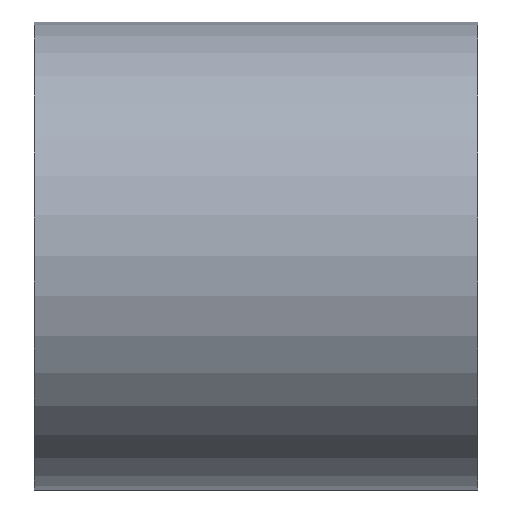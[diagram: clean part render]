
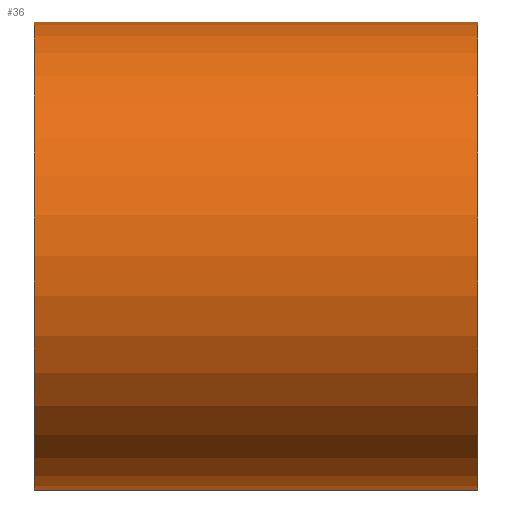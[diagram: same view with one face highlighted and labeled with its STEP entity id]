
A CAD part, top view. The second image highlights one B-rep face of the part: STEP entity #36.
In plain terms, the highlighted cylindrical face has radius 1.054 mm (diameter 2.108 mm), a partial arc.
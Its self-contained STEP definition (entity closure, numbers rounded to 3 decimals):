
#36=ADVANCED_FACE('',(#42),#78,.T.);
#42=FACE_OUTER_BOUND('',#50,.F.);
#50=EDGE_LOOP('',(#71,#72,#73,#74));
#71=ORIENTED_EDGE('',*,*,#101,.F.);
#72=ORIENTED_EDGE('',*,*,#106,.T.);
#73=ORIENTED_EDGE('',*,*,#102,.T.);
#74=ORIENTED_EDGE('',*,*,#105,.T.);
#78=CYLINDRICAL_SURFACE('',#138,1.054);
#89=LINE('',#191,#93);
#90=LINE('',#192,#94);
#93=VECTOR('',#152,2.);
#94=VECTOR('',#153,2.);
#101=EDGE_CURVE('',#115,#118,#89,.T.);
#102=EDGE_CURVE('',#116,#117,#90,.T.);
#105=EDGE_CURVE('',#117,#118,#113,.T.);
#106=EDGE_CURVE('',#115,#116,#114,.T.);
#113=CIRCLE('',#131,1.054);
#114=CIRCLE('',#132,1.054);
#115=VERTEX_POINT('',#177);
#116=VERTEX_POINT('',#178);
#117=VERTEX_POINT('',#179);
#118=VERTEX_POINT('',#180);
#131=AXIS2_PLACEMENT_3D('',#195,#158,#159);
#132=AXIS2_PLACEMENT_3D('',#196,#160,#161);
#138=AXIS2_PLACEMENT_3D('',#202,#172,#173);
#152=DIRECTION('',(1.,0.,0.));
#153=DIRECTION('',(1.,0.,0.));
#158=DIRECTION('',(1.,0.,0.));
#159=DIRECTION('',(0.,1.,0.));
#160=DIRECTION('',(-1.,0.,0.));
#161=DIRECTION('',(0.,-1.,0.));
#172=DIRECTION('',(1.,0.,0.));
#173=DIRECTION('',(0.,1.,0.));
#177=CARTESIAN_POINT('',(-1.,-3.254,176.55));
#178=CARTESIAN_POINT('',(-1.,-1.146,176.55));
#179=CARTESIAN_POINT('',(1.,-1.146,176.55));
#180=CARTESIAN_POINT('',(1.,-3.254,176.55));
#191=CARTESIAN_POINT('',(-1.,-3.254,176.55));
#192=CARTESIAN_POINT('',(-1.,-1.146,176.55));
#195=CARTESIAN_POINT('',(1.,-2.2,176.55));
#196=CARTESIAN_POINT('',(-1.,-2.2,176.55));
#202=CARTESIAN_POINT('',(-1.,-2.2,176.55));
